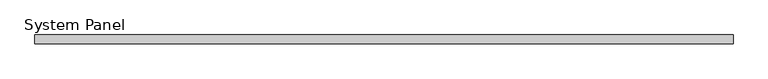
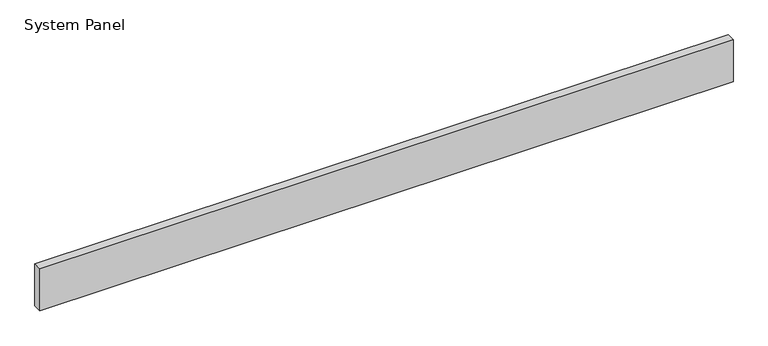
"""IFC4 building model written with IfcOpenShell, lengths in millimetres: plate geometry, System Panel : MetecnoPanel 75mm Horizontal - Plain Astro - PIR."""

from ifc_helpers import new_model, si_unit, origin, origin_with_axes, place, context, project, spatial, polyline, outline, extrude, source, transform, mapped, element, save


def system_panel_abe27e6f(model_context):
    return source(origin(), model_context, "Body", "SweptSolid", [
        extrude(outline(polyline([(2990.0, -75.0), (-2990.0, -75.0), (-2990.0, 0.0), (2990.0, 0.0), (2990.0, -75.0)])), origin_with_axes(), (0.0, 0.0, 1.0), 379.9704237),
    ])


if __name__ == "__main__":
    model = new_model("IFC4")
    model_context = context("Model", 3, world=origin())
    ifc_project = project(units=[si_unit("LENGTHUNIT", "METRE", prefix="MILLI")], contexts=[model_context])
    site = spatial("IfcSite", under=ifc_project)
    building = spatial("IfcBuilding", under=site)
    placement = place(None, origin())
    system_panel_shape = system_panel_abe27e6f(model_context)
    element("IfcPlate", 1, ObjectType="System Panel : MetecnoPanel 75mm Horizontal - Plain Astro - PIR", at=placement, inside=building, context=model_context, shape_type="MappedRepresentation", body=[
        mapped(system_panel_shape, transform((0.0, 0.0, 0.0), x_axis=(1.0, 0.0, 0.0), y_axis=(0.0, 1.0, 0.0), z_axis=(0.0, 0.0, 1.0))),
    ])
    save(model, "model.ifc")
